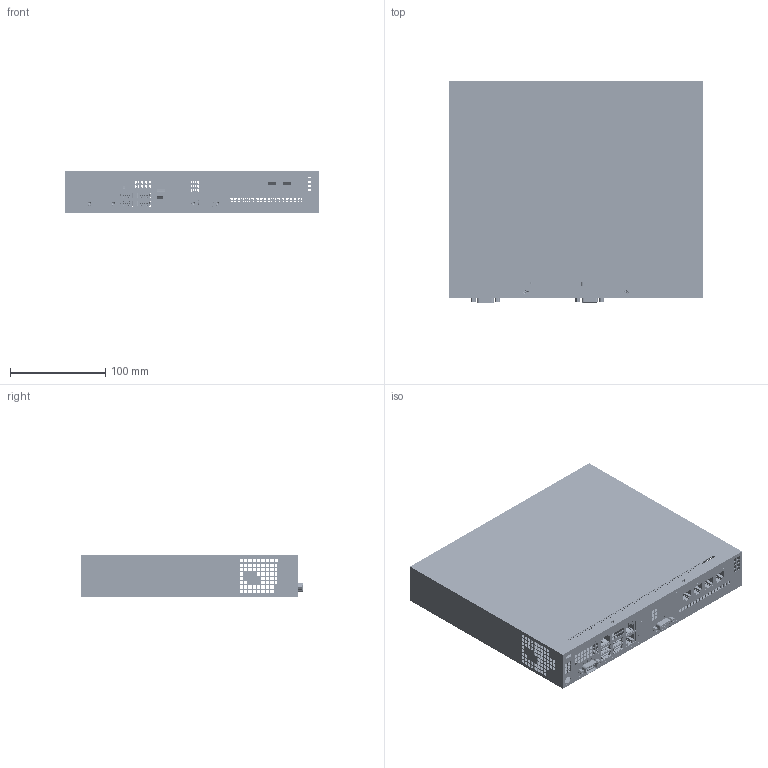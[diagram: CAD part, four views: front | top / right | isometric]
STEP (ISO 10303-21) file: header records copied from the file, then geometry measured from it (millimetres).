
FILE_DESCRIPTION(/* description */ (''),/* implementation_level */ '2;1');
FILE_NAME(/* name */ 'C:/Users/brook/Downloads/Small Server.step',/* time_stamp */ '2022-05-25T12:15:57-04:00',/* author */ (''),/* organization */ (''),/* preprocessor_version */ 'ST-DEVELOPER v18.1',/* originating_system */ 'Autodesk Translation Framework v10.14.0.1471',/* authorisation */ '');
FILE_SCHEMA (('AUTOMOTIVE_DESIGN { 1 0 10303 214 3 1 1 }'));
Products named in the file (19): Small Server (Constrained); Front IO Panel; RJ45; RJ45_1; RJ45_2; USB Port_SW 2015; USB Port_SW 2015_1; USB Port_SW 2015_2; USB Port_SW 2015_3; USB Port_SW 2015_4; VGA Male (good); VGA Female (Good); Jack Screw for K42X-B25S-S-A4NJ-rA3; RJ45_3; RJ45_4; RJ45_5; RJ45_6; Component1; 96640A054_Black-Oxide 18-8 Stainless Steel Phillips Flat Head Screws
Assembly tree (31 placements, depth 4):
  Small Server (Constrained)
    Front IO Panel
      RJ45
        Component1
      RJ45_1
        Component1
      RJ45_2
        Component1
      USB Port_SW 2015
        USB Port_SW 2015_4
      USB Port_SW 2015_1
        USB Port_SW 2015_4
      USB Port_SW 2015_2
        USB Port_SW 2015_4
      USB Port_SW 2015_3
        USB Port_SW 2015_4
      Jack Screw for K42X-B25S-S-A4NJ-rA3  x4
      VGA Male (good)
      VGA Female (Good)
    RJ45_3
      Component1
    RJ45_4
      Component1
    RJ45_5
      Component1
    RJ45_6
      Component1
    96640A054_Black-Oxide 18-8 Stainless Steel Phillips Flat Head Screws  x2
Bounding box: 266.28 x 232.65 x 43.63 mm (x, y, z)
Volume: 139217 mm3; surface area: 372657.8 mm2
Topology: 25 solids, 3005 shells, 9408 faces, 32727 edges, 26581 vertices
Faces by surface type: plane 4557, cylinder 2565, bspline 1854, torus 220, sphere 176, cone 36
Full cylindrical faces by diameter (mm): 0.635 x15, 0.65 x84, 0.66 x9, 1.016 x24, 1.986 x10, 2.261 x2, 2.271 x8, 2.5 x3, 2.845 x24, 3 x400, 3.048 x2, 3.099 x4, 3.454 x2, 3.5 x10, 3.708 x2, 3.899 x2, 3.912 x2, 3.988 x2, 5.2 x2, 5.677 x2, 8 x1, 9.85 x2
Entity records: 245353 total; most frequent: CARTESIAN_POINT 89719, ORIENTED_EDGE 31764, DIRECTION 25520, EDGE_CURVE 17740, VERTEX_POINT 13045, LINE 11398, VECTOR 11398, EDGE_LOOP 7430
